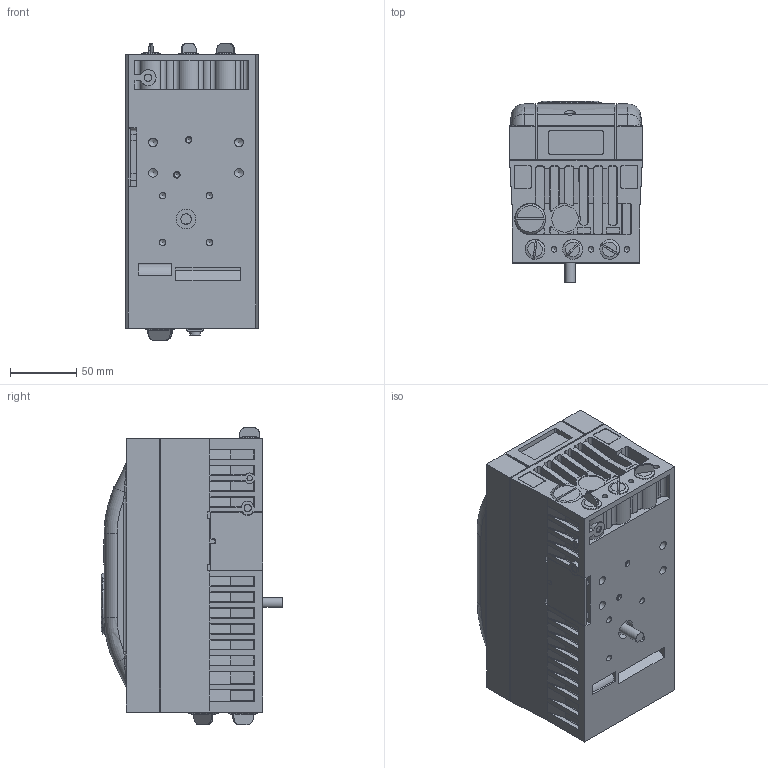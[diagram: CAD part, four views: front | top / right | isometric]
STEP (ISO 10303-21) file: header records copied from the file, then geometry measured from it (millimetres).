
FILE_DESCRIPTION((''),'2;1');
FILE_NAME('C:\Users\CASOMAT\Desktop\Inventor Master Project\Projects\Positioners\TZIDC-200\TZIDC-200.stp','2011-11-08T15:13:28',('CASOMAT'),(''),'Autodesk Inventor 2011','Autodesk Inventor 2011','');
FILE_SCHEMA(('AUTOMOTIVE_DESIGN { 1 0 10303 214 1 1 1 1 }'));
Length unit declared in the file: millimetre
Products named in the file (12): TZIDC-200; Base; Cover; Panel Cover; Cover Screw; Ground Plate; Ground Screw; Filter Cover; Plug - Large; Panel Cover Screw; Plug - Small; Indicator
Assembly tree (18 placements, depth 2):
  TZIDC-200
    Base
    Cover
    Panel Cover
    Cover Screw  x4
    Ground Plate
    Ground Screw
    Filter Cover
    Plug - Large  x2
    Panel Cover Screw  x2
    Plug - Small  x3
    Indicator
Bounding box: 100.5 x 137.25 x 225 mm (x, y, z)
Volume: 1463867.8 mm3; surface area: 294158.6 mm2
Topology: 18 solids, 18 shells, 1432 faces, 3533 edges, 2132 vertices
Faces by surface type: plane 685, cylinder 460, cone 132, sphere 104, bspline 45, torus 6
Full cylindrical faces by diameter (mm): 3.8 x2, 4 x4, 4.134 x6, 4.917 x4, 5 x4, 6 x1, 6.647 x8, 6.8 x2, 7.5 x4, 8 x7, 8.2 x1, 8.5 x4, 10 x3, 10.5 x4, 10.719 x3, 12 x2, 13 x4, 14 x2, 14.5 x4, 15 x4, 17.475 x2, 18 x2, 18.376 x1, 20 x3, 22.25 x2, 23 x1, 31.9 x1, 32.9 x1, 33 x1
Entity records: 38699 total; most frequent: CARTESIAN_POINT 7943, DIRECTION 6540, ORIENTED_EDGE 6012, EDGE_CURVE 3006, AXIS2_PLACEMENT_3D 2359, VERTEX_POINT 1916, VECTOR 1822, LINE 1822
